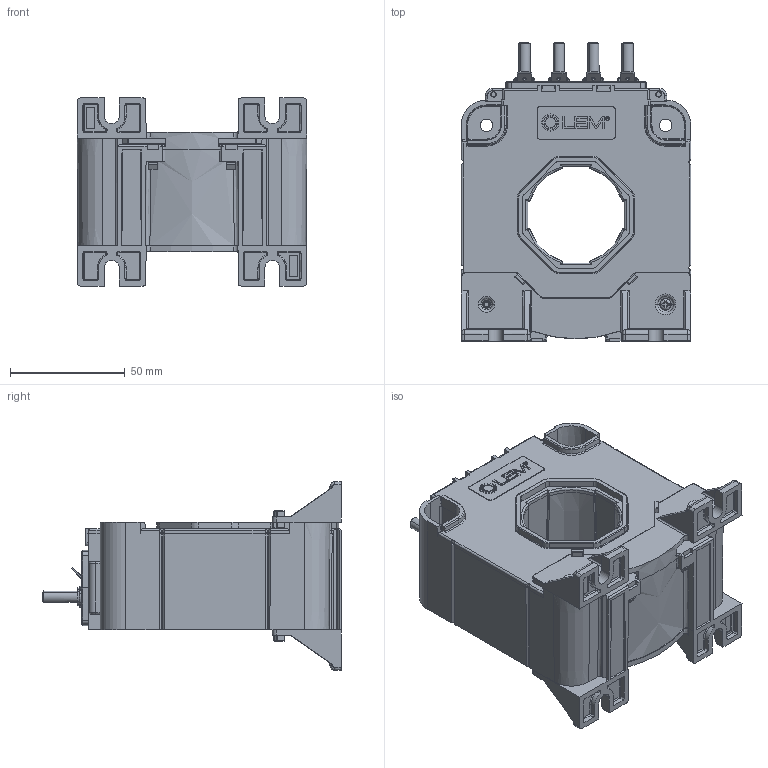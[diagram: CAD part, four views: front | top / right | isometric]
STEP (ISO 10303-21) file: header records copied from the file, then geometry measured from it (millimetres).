
FILE_DESCRIPTION(('CoCreate Modeling STEP Export'),'2;1');
FILE_NAME('LTC 1000 SF blackbox.stp','2010-01-28T15:41:39',(''),(''),'CoCreate Modeling STEP processor for AP214 (Solid Model)','CoCreate Modeling 16.00A 16-Aug-2008 (C) Parametric Technology GmbH','');
FILE_SCHEMA(('AUTOMOTIVE_DESIGN { 1 0 10303 214 1 1 1 1 }'));
Products named in the file (2): Boitier_LTC_1000_SF_blackbox
Assembly tree (1 placements, depth 2):
  Boitier_LTC_1000_SF_blackbox
    Boitier_LTC_1000_SF_blackbox
Bounding box: 100.14 x 130 x 82 mm (x, y, z)
Volume: 131346 mm3; surface area: 123857.4 mm2
Topology: 1 solids, 3 shells, 3367 faces, 8998 edges, 5675 vertices
Faces by surface type: plane 1574, cylinder 824, bspline 378, cone 248, torus 172, extrusion 151, sphere 20
Entity records: 145675 total; most frequent: CARTESIAN_POINT 68086, ORIENTED_EDGE 17952, DIRECTION 13433, EDGE_CURVE 8976, VERTEX_POINT 5675, VECTOR 5155, LINE 5008, AXIS2_PLACEMENT_3D 4139
